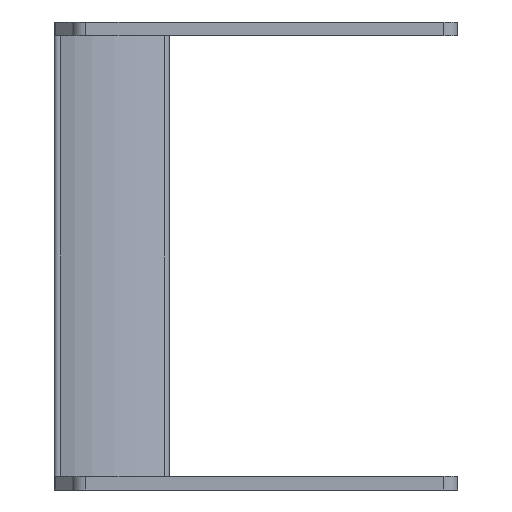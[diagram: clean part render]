
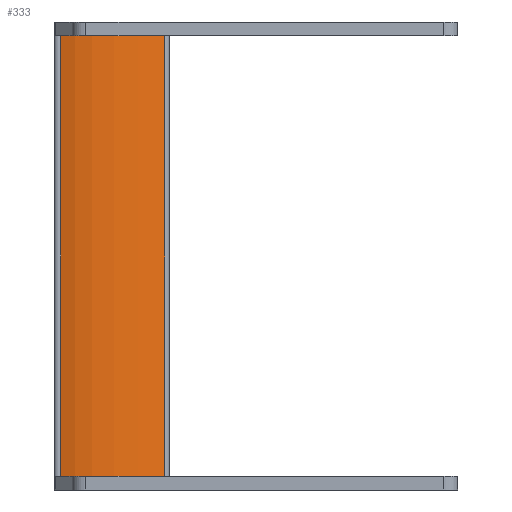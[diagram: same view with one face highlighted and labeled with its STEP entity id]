
A CAD part, left-side view. The second image highlights one B-rep face of the part: STEP entity #333.
In plain terms, the highlighted cylindrical face has radius 40.64 mm (diameter 81.28 mm), a partial arc.
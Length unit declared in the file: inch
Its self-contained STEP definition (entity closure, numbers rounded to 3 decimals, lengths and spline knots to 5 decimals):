
#40=CARTESIAN_POINT('',(-1.52,1.63,-1.993));
#41=DIRECTION('',(0.,0.,-1.));
#42=DIRECTION('',(0.914,-0.405,0.));
#43=AXIS2_PLACEMENT_3D('',#40,#41,#42);
#87=CARTESIAN_POINT('',(-1.52,1.63,1.993));
#88=DIRECTION('',(0.,0.,-1.));
#89=DIRECTION('',(0.914,-0.405,0.));
#90=AXIS2_PLACEMENT_3D('',#87,#88,#89);
#118=DIRECTION('',(0.,0.,1.));
#119=VECTOR('',#118,3.986);
#120=CARTESIAN_POINT('',(-1.00032,0.11675,-1.993));
#121=LINE('',#120,#119);
#122=DIRECTION('',(0.,0.,1.));
#123=VECTOR('',#122,3.986);
#124=CARTESIAN_POINT('',(-0.05742,0.98126,-1.993));
#125=LINE('',#124,#123);
#154=CARTESIAN_POINT('',(-0.05742,0.98126,-1.993));
#155=VERTEX_POINT('',#154);
#156=CARTESIAN_POINT('',(-1.00032,0.11675,-1.993));
#157=VERTEX_POINT('',#156);
#174=CARTESIAN_POINT('',(-0.05742,0.98126,1.993));
#175=VERTEX_POINT('',#174);
#176=CARTESIAN_POINT('',(-1.00032,0.11675,1.993));
#177=VERTEX_POINT('',#176);
#321=CARTESIAN_POINT('',(-1.52,1.63,-1.993));
#322=DIRECTION('',(0.,0.,1.));
#323=DIRECTION('',(1.,0.,0.));
#324=AXIS2_PLACEMENT_3D('',#321,#322,#323);
#325=CYLINDRICAL_SURFACE('',#324,1.6);
#326=ORIENTED_EDGE('',*,*,#191,.F.);
#328=ORIENTED_EDGE('',*,*,#327,.T.);
#329=ORIENTED_EDGE('',*,*,#247,.T.);
#330=ORIENTED_EDGE('',*,*,#314,.F.);
#331=EDGE_LOOP('',(#326,#328,#329,#330));
#332=FACE_OUTER_BOUND('',#331,.F.);
#44=CIRCLE('',#43,1.6);
#91=CIRCLE('',#90,1.6);
#191=EDGE_CURVE('',#155,#157,#44,.T.);
#247=EDGE_CURVE('',#175,#177,#91,.T.);
#314=EDGE_CURVE('',#157,#177,#121,.T.);
#327=EDGE_CURVE('',#155,#175,#125,.T.);
#333=ADVANCED_FACE('',(#332),#325,.F.);
